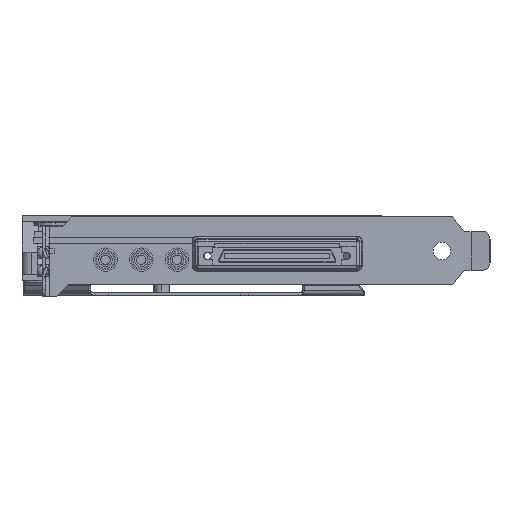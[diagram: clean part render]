
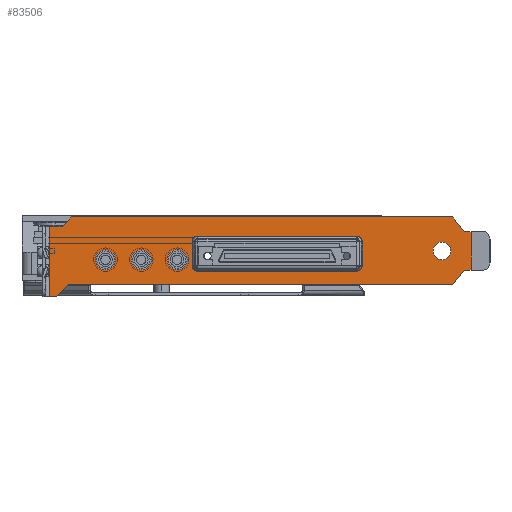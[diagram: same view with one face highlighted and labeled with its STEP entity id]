
A CAD part, left-side view. The second image highlights one B-rep face of the part: STEP entity #83506.
In plain terms, the highlighted planar face has unit normal (-1, 0, 0).
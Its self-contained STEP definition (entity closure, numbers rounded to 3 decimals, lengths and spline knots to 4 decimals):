
#18291=DIRECTION('',(0.,-1.,0.));
#18292=VECTOR('',#18291,0.078);
#18293=CARTESIAN_POINT('',(-6.291,2.564,-0.2374));
#18294=LINE('',#18293,#18292);
#19265=DIRECTION('',(0.,-1.,0.));
#19266=VECTOR('',#19265,4.0519);
#19267=CARTESIAN_POINT('',(-6.291,2.327,0.6126));
#19268=LINE('',#19267,#19266);
#19351=DIRECTION('',(0.,0.,1.));
#19352=VECTOR('',#19351,0.412);
#19353=CARTESIAN_POINT('',(-6.291,-1.92,0.0456));
#19354=LINE('',#19353,#19352);
#19355=DIRECTION('',(0.,1.,0.));
#19356=VECTOR('',#19355,0.074);
#19357=CARTESIAN_POINT('',(-6.291,-1.92,0.0456));
#19358=LINE('',#19357,#19356);
#19359=DIRECTION('',(0.,0.616,-0.788));
#19360=VECTOR('',#19359,0.1967);
#19361=CARTESIAN_POINT('',(-6.291,-1.846,0.0456));
#19362=LINE('',#19361,#19360);
#19363=DIRECTION('',(0.,1.,0.));
#19364=VECTOR('',#19363,4.0829);
#19365=CARTESIAN_POINT('',(-6.291,-1.7249,-0.1094));
#19366=LINE('',#19365,#19364);
#19367=DIRECTION('',(0.,0.707,-0.707));
#19368=VECTOR('',#19367,0.181);
#19369=CARTESIAN_POINT('',(-6.291,2.358,-0.1094));
#19370=LINE('',#19369,#19368);
#19371=DIRECTION('',(0.,0.,-1.));
#19372=VECTOR('',#19371,0.75);
#19373=CARTESIAN_POINT('',(-6.291,2.564,0.5126));
#19374=LINE('',#19373,#19372);
#19375=DIRECTION('',(0.,-1.,0.));
#19376=VECTOR('',#19375,0.137);
#19377=CARTESIAN_POINT('',(-6.291,2.564,0.5126));
#19378=LINE('',#19377,#19376);
#19379=DIRECTION('',(0.,-0.707,0.707));
#19380=VECTOR('',#19379,0.1414);
#19381=CARTESIAN_POINT('',(-6.291,2.427,0.5126));
#19382=LINE('',#19381,#19380);
#19383=DIRECTION('',(0.,-0.616,-0.788));
#19384=VECTOR('',#19383,0.1967);
#19385=CARTESIAN_POINT('',(-6.291,-1.7249,0.6126));
#19386=LINE('',#19385,#19384);
#19387=DIRECTION('',(0.,1.,0.));
#19388=VECTOR('',#19387,0.074);
#19389=CARTESIAN_POINT('',(-6.291,-1.92,0.4576));
#19390=LINE('',#19389,#19388);
#19391=CARTESIAN_POINT('',(-6.291,-1.609,0.2516));
#19392=DIRECTION('',(-1.,0.,0.));
#19393=DIRECTION('',(0.,-1.,0.));
#19394=AXIS2_PLACEMENT_3D('',#19391,#19392,#19393);
#19396=CARTESIAN_POINT('',(-6.291,-1.609,0.2516));
#19397=DIRECTION('',(-1.,0.,0.));
#19398=DIRECTION('',(0.,1.,0.));
#19399=AXIS2_PLACEMENT_3D('',#19396,#19397,#19398);
#19401=CARTESIAN_POINT('',(-6.291,0.9864,0.3496));
#19402=DIRECTION('',(-1.,0.,0.));
#19403=DIRECTION('',(0.,0.,1.));
#19404=AXIS2_PLACEMENT_3D('',#19401,#19402,#19403);
#19406=DIRECTION('',(0.,0.,-1.));
#19407=VECTOR('',#19406,0.255);
#19408=CARTESIAN_POINT('',(-6.291,1.0441,0.3496));
#19409=LINE('',#19408,#19407);
#19410=CARTESIAN_POINT('',(-6.291,0.9864,0.0946));
#19411=DIRECTION('',(-1.,0.,0.));
#19412=DIRECTION('',(0.,1.,0.));
#19413=AXIS2_PLACEMENT_3D('',#19410,#19411,#19412);
#19415=DIRECTION('',(0.,-1.,0.));
#19416=VECTOR('',#19415,1.691);
#19417=CARTESIAN_POINT('',(-6.291,0.9864,0.0369));
#19418=LINE('',#19417,#19416);
#19419=CARTESIAN_POINT('',(-6.291,-0.7046,0.0946));
#19420=DIRECTION('',(-1.,0.,0.));
#19421=DIRECTION('',(0.,0.,-1.));
#19422=AXIS2_PLACEMENT_3D('',#19419,#19420,#19421);
#19424=DIRECTION('',(0.,0.,1.));
#19425=VECTOR('',#19424,0.255);
#19426=CARTESIAN_POINT('',(-6.291,-0.7624,0.0946));
#19427=LINE('',#19426,#19425);
#19428=CARTESIAN_POINT('',(-6.291,-0.7046,0.3496));
#19429=DIRECTION('',(-1.,0.,0.));
#19430=DIRECTION('',(0.,-1.,0.));
#19431=AXIS2_PLACEMENT_3D('',#19428,#19429,#19430);
#19433=DIRECTION('',(0.,1.,0.));
#19434=VECTOR('',#19433,1.691);
#19435=CARTESIAN_POINT('',(-6.291,-0.7046,0.4074));
#19436=LINE('',#19435,#19434);
#19437=CARTESIAN_POINT('',(-6.291,1.206,0.1576));
#19438=DIRECTION('',(-1.,0.,0.));
#19439=DIRECTION('',(0.,0.,-1.));
#19440=AXIS2_PLACEMENT_3D('',#19437,#19438,#19439);
#19442=CARTESIAN_POINT('',(-6.291,1.206,0.1576));
#19443=DIRECTION('',(-1.,0.,0.));
#19444=DIRECTION('',(0.,0.,1.));
#19445=AXIS2_PLACEMENT_3D('',#19442,#19443,#19444);
#19447=CARTESIAN_POINT('',(-6.291,1.586,0.1576));
#19448=DIRECTION('',(-1.,0.,0.));
#19449=DIRECTION('',(0.,0.,-1.));
#19450=AXIS2_PLACEMENT_3D('',#19447,#19448,#19449);
#19452=CARTESIAN_POINT('',(-6.291,1.586,0.1576));
#19453=DIRECTION('',(-1.,0.,0.));
#19454=DIRECTION('',(0.,0.,1.));
#19455=AXIS2_PLACEMENT_3D('',#19452,#19453,#19454);
#19457=CARTESIAN_POINT('',(-6.291,1.966,0.1576));
#19458=DIRECTION('',(-1.,0.,0.));
#19459=DIRECTION('',(0.,0.,-1.));
#19460=AXIS2_PLACEMENT_3D('',#19457,#19458,#19459);
#19462=CARTESIAN_POINT('',(-6.291,1.966,0.1576));
#19463=DIRECTION('',(-1.,0.,0.));
#19464=DIRECTION('',(0.,0.,1.));
#19465=AXIS2_PLACEMENT_3D('',#19462,#19463,#19464);
#58105=CARTESIAN_POINT('',(-6.291,2.564,-0.2374));
#58107=VERTEX_POINT('',#58105);
#58132=CARTESIAN_POINT('',(-6.291,2.564,0.5126));
#58134=VERTEX_POINT('',#58132);
#58136=CARTESIAN_POINT('',(-6.291,2.427,0.5126));
#58137=VERTEX_POINT('',#58136);
#58138=CARTESIAN_POINT('',(-6.291,2.327,0.6126));
#58139=VERTEX_POINT('',#58138);
#58140=CARTESIAN_POINT('',(-6.291,-1.846,0.0456));
#58141=CARTESIAN_POINT('',(-6.291,-1.7249,-0.1094));
#58142=VERTEX_POINT('',#58140);
#58143=VERTEX_POINT('',#58141);
#58144=CARTESIAN_POINT('',(-6.291,2.358,-0.1094));
#58145=VERTEX_POINT('',#58144);
#58146=CARTESIAN_POINT('',(-6.291,2.486,-0.2374));
#58147=VERTEX_POINT('',#58146);
#58148=CARTESIAN_POINT('',(-6.291,-1.7249,0.6126));
#58149=CARTESIAN_POINT('',(-6.291,-1.846,0.4576));
#58150=VERTEX_POINT('',#58148);
#58151=VERTEX_POINT('',#58149);
#58236=CARTESIAN_POINT('',(-6.291,-1.7025,0.2516));
#58237=CARTESIAN_POINT('',(-6.291,-1.5155,0.2516));
#58238=VERTEX_POINT('',#58236);
#58239=VERTEX_POINT('',#58237);
#58248=CARTESIAN_POINT('',(-6.291,-1.92,0.0456));
#58249=VERTEX_POINT('',#58248);
#58250=CARTESIAN_POINT('',(-6.291,-1.92,0.4576));
#58251=VERTEX_POINT('',#58250);
#58328=CARTESIAN_POINT('',(-6.291,0.9864,0.4074));
#58329=CARTESIAN_POINT('',(-6.291,1.0441,0.3496));
#58330=VERTEX_POINT('',#58328);
#58331=VERTEX_POINT('',#58329);
#58332=CARTESIAN_POINT('',(-6.291,1.0441,0.0946));
#58333=VERTEX_POINT('',#58332);
#58334=CARTESIAN_POINT('',(-6.291,0.9864,0.0369));
#58335=VERTEX_POINT('',#58334);
#58336=CARTESIAN_POINT('',(-6.291,-0.7046,0.0369));
#58337=VERTEX_POINT('',#58336);
#58338=CARTESIAN_POINT('',(-6.291,-0.7624,0.0946));
#58339=VERTEX_POINT('',#58338);
#58340=CARTESIAN_POINT('',(-6.291,-0.7624,0.3496));
#58341=VERTEX_POINT('',#58340);
#58342=CARTESIAN_POINT('',(-6.291,-0.7046,0.4074));
#58343=VERTEX_POINT('',#58342);
#58400=CARTESIAN_POINT('',(-6.291,1.206,0.0511));
#58401=CARTESIAN_POINT('',(-6.291,1.206,0.2641));
#58402=VERTEX_POINT('',#58400);
#58403=VERTEX_POINT('',#58401);
#58404=CARTESIAN_POINT('',(-6.291,1.586,0.0511));
#58405=CARTESIAN_POINT('',(-6.291,1.586,0.2641));
#58406=VERTEX_POINT('',#58404);
#58407=VERTEX_POINT('',#58405);
#58408=CARTESIAN_POINT('',(-6.291,1.966,0.0511));
#58409=CARTESIAN_POINT('',(-6.291,1.966,0.2641));
#58410=VERTEX_POINT('',#58408);
#58411=VERTEX_POINT('',#58409);
#83445=CARTESIAN_POINT('',(-6.291,2.564,0.6126));
#83446=DIRECTION('',(-1.,0.,0.));
#83447=DIRECTION('',(0.,-1.,0.));
#83448=AXIS2_PLACEMENT_3D('',#83445,#83446,#83447);
#83449=PLANE('',#83448);
#83450=ORIENTED_EDGE('',*,*,#83439,.F.);
#83451=ORIENTED_EDGE('',*,*,#82438,.T.);
#83452=ORIENTED_EDGE('',*,*,#82451,.T.);
#83453=ORIENTED_EDGE('',*,*,#82465,.T.);
#83454=ORIENTED_EDGE('',*,*,#82479,.T.);
#83455=ORIENTED_EDGE('',*,*,#82494,.F.);
#83456=ORIENTED_EDGE('',*,*,#82535,.F.);
#83457=ORIENTED_EDGE('',*,*,#83286,.T.);
#83458=ORIENTED_EDGE('',*,*,#83300,.T.);
#83459=ORIENTED_EDGE('',*,*,#83313,.T.);
#83460=ORIENTED_EDGE('',*,*,#83328,.T.);
#83461=ORIENTED_EDGE('',*,*,#83341,.F.);
#83462=EDGE_LOOP('',(#83450,#83451,#83452,#83453,#83454,#83455,#83456,#83457,
#83458,#83459,#83460,#83461));
#83463=FACE_OUTER_BOUND('',#83462,.F.);
#83465=ORIENTED_EDGE('',*,*,#83464,.T.);
#83467=ORIENTED_EDGE('',*,*,#83466,.T.);
#83468=EDGE_LOOP('',(#83465,#83467));
#83469=FACE_BOUND('',#83468,.F.);
#83471=ORIENTED_EDGE('',*,*,#83470,.T.);
#83473=ORIENTED_EDGE('',*,*,#83472,.T.);
#83475=ORIENTED_EDGE('',*,*,#83474,.T.);
#83477=ORIENTED_EDGE('',*,*,#83476,.T.);
#83479=ORIENTED_EDGE('',*,*,#83478,.T.);
#83481=ORIENTED_EDGE('',*,*,#83480,.T.);
#83483=ORIENTED_EDGE('',*,*,#83482,.T.);
#83485=ORIENTED_EDGE('',*,*,#83484,.T.);
#83486=EDGE_LOOP('',(#83471,#83473,#83475,#83477,#83479,#83481,#83483,#83485));
#83487=FACE_BOUND('',#83486,.F.);
#83489=ORIENTED_EDGE('',*,*,#83488,.T.);
#83491=ORIENTED_EDGE('',*,*,#83490,.T.);
#83492=EDGE_LOOP('',(#83489,#83491));
#83493=FACE_BOUND('',#83492,.F.);
#83495=ORIENTED_EDGE('',*,*,#83494,.T.);
#83497=ORIENTED_EDGE('',*,*,#83496,.T.);
#83498=EDGE_LOOP('',(#83495,#83497));
#83499=FACE_BOUND('',#83498,.F.);
#83501=ORIENTED_EDGE('',*,*,#83500,.T.);
#83503=ORIENTED_EDGE('',*,*,#83502,.T.);
#83504=EDGE_LOOP('',(#83501,#83503));
#83505=FACE_BOUND('',#83504,.F.);
#83506=ADVANCED_FACE('',(#83463,#83469,#83487,#83493,#83499,#83505),#83449,.T.);
#19395=CIRCLE('',#19394,0.0935);
#19400=CIRCLE('',#19399,0.0935);
#19405=CIRCLE('',#19404,0.0578);
#19414=CIRCLE('',#19413,0.0578);
#19423=CIRCLE('',#19422,0.0578);
#19432=CIRCLE('',#19431,0.0578);
#19441=CIRCLE('',#19440,0.1065);
#19446=CIRCLE('',#19445,0.1065);
#19451=CIRCLE('',#19450,0.1065);
#19456=CIRCLE('',#19455,0.1065);
#19461=CIRCLE('',#19460,0.1065);
#19466=CIRCLE('',#19465,0.1065);
#82438=EDGE_CURVE('',#58249,#58142,#19358,.T.);
#82451=EDGE_CURVE('',#58142,#58143,#19362,.T.);
#82465=EDGE_CURVE('',#58143,#58145,#19366,.T.);
#82479=EDGE_CURVE('',#58145,#58147,#19370,.T.);
#82494=EDGE_CURVE('',#58107,#58147,#18294,.T.);
#82535=EDGE_CURVE('',#58134,#58107,#19374,.T.);
#83286=EDGE_CURVE('',#58134,#58137,#19378,.T.);
#83300=EDGE_CURVE('',#58137,#58139,#19382,.T.);
#83313=EDGE_CURVE('',#58139,#58150,#19268,.T.);
#83328=EDGE_CURVE('',#58150,#58151,#19386,.T.);
#83341=EDGE_CURVE('',#58251,#58151,#19390,.T.);
#83439=EDGE_CURVE('',#58249,#58251,#19354,.T.);
#83464=EDGE_CURVE('',#58238,#58239,#19395,.T.);
#83466=EDGE_CURVE('',#58239,#58238,#19400,.T.);
#83470=EDGE_CURVE('',#58330,#58331,#19405,.T.);
#83472=EDGE_CURVE('',#58331,#58333,#19409,.T.);
#83474=EDGE_CURVE('',#58333,#58335,#19414,.T.);
#83476=EDGE_CURVE('',#58335,#58337,#19418,.T.);
#83478=EDGE_CURVE('',#58337,#58339,#19423,.T.);
#83480=EDGE_CURVE('',#58339,#58341,#19427,.T.);
#83482=EDGE_CURVE('',#58341,#58343,#19432,.T.);
#83484=EDGE_CURVE('',#58343,#58330,#19436,.T.);
#83488=EDGE_CURVE('',#58402,#58403,#19441,.T.);
#83490=EDGE_CURVE('',#58403,#58402,#19446,.T.);
#83494=EDGE_CURVE('',#58406,#58407,#19451,.T.);
#83496=EDGE_CURVE('',#58407,#58406,#19456,.T.);
#83500=EDGE_CURVE('',#58410,#58411,#19461,.T.);
#83502=EDGE_CURVE('',#58411,#58410,#19466,.T.);
